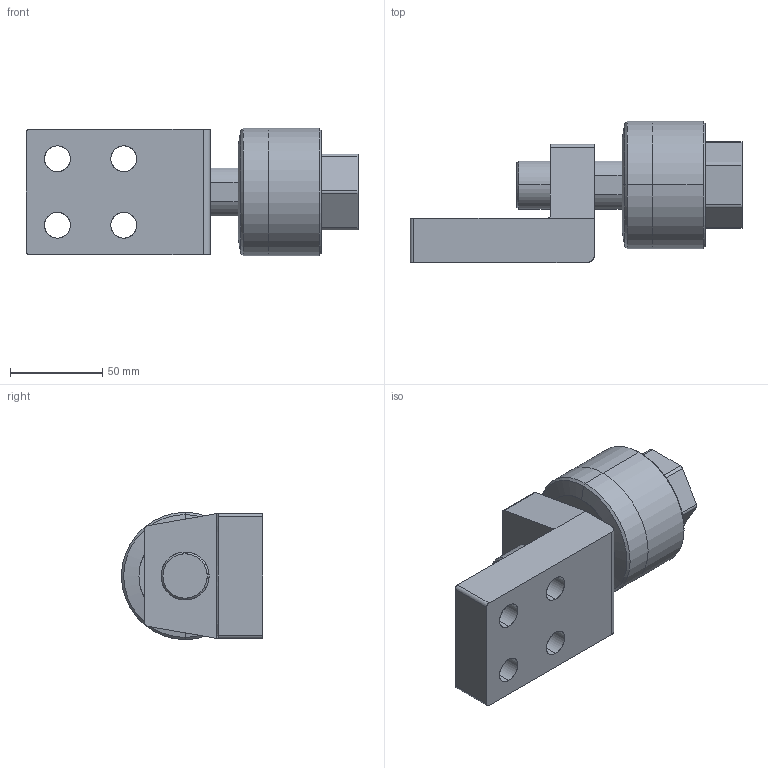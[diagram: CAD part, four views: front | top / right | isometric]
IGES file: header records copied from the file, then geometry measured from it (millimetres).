
Start section: SolidWorks IGES file using analytic representation for surfaces
Global section: file name: C:\Users\Toshiba\Desktop\FCM26A-1.5-L.IGS; native system: SolidWorks 2014; preprocessor: SolidWorks 2014; author: Toshiba; date: 160414.100027; units: millimetre
Bounding box: 180 x 76.5 x 69 mm (x, y, z)
Surface area: 57644.2 mm2 (no closed solid volume)
Topology: 0 solids, 0 shells, 71 faces, 1072 edges, 1072 vertices
Faces by surface type: revolution 42, bspline 29
